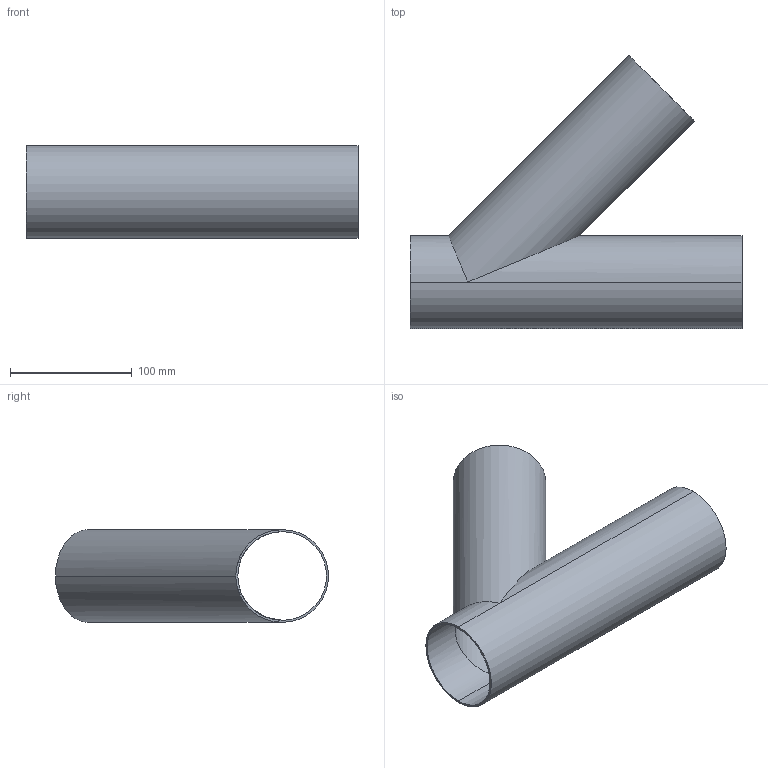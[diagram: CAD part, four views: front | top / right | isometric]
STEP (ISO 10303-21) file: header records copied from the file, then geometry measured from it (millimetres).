
FILE_DESCRIPTION (( 'STEP AP214' ), '1' );
FILE_NAME ('TE28WA6L3.0-...STEP', '2016-05-24T12:44:44', ( 'eran' ), ( '' ), 'SwSTEP 2.0', 'SolidWorks 2016', '' );
FILE_SCHEMA (( 'AUTOMOTIVE_DESIGN' ));
Length unit declared in the file: millimetre
Products named in the file (1): TE28WA6L3.0-..
Bounding box: 272.9 x 224.42 x 76.2 mm (x, y, z)
Volume: 166621.3 mm3; surface area: 203114.2 mm2
Topology: 1 solids, 1 shells, 13 faces, 32 edges, 20 vertices
Faces by surface type: cylinder 10, plane 3
Entity records: 428 total; most frequent: CARTESIAN_POINT 90, ORIENTED_EDGE 64, DIRECTION 64, EDGE_CURVE 32, AXIS2_PLACEMENT_3D 26, VERTEX_POINT 20, EDGE_LOOP 16, FACE_OUTER_BOUND 13
